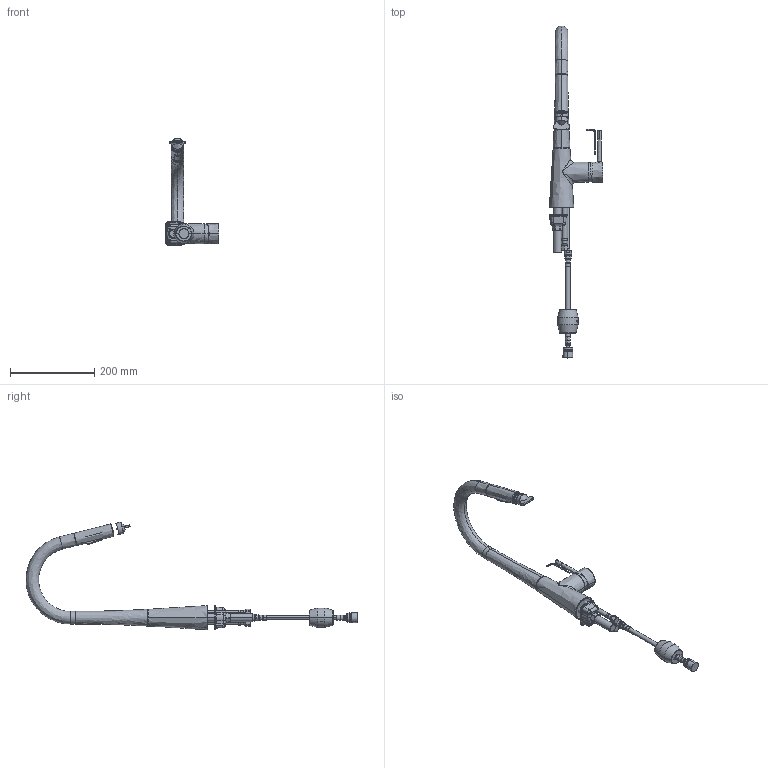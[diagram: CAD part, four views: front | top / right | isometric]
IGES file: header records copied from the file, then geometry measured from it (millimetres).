
Start section:  PTC IGES file: 434-abcp_rev030119.igs
Global section: file name: 434-abcp_rev030119.igs; native system: Creo Parametric by PTC Inc.; preprocessor: 2017260; author: rodjo; organization: Unknown; date: 20190301.110146; units: inch
Bounding box: 127.72 x 786.9 x 255.67 mm (x, y, z)
Surface area: 167908.3 mm2 (no closed solid volume)
Topology: 0 solids, 0 shells, 460 faces, 3847 edges, 5161 vertices
Faces by surface type: revolution 310, bspline 150
